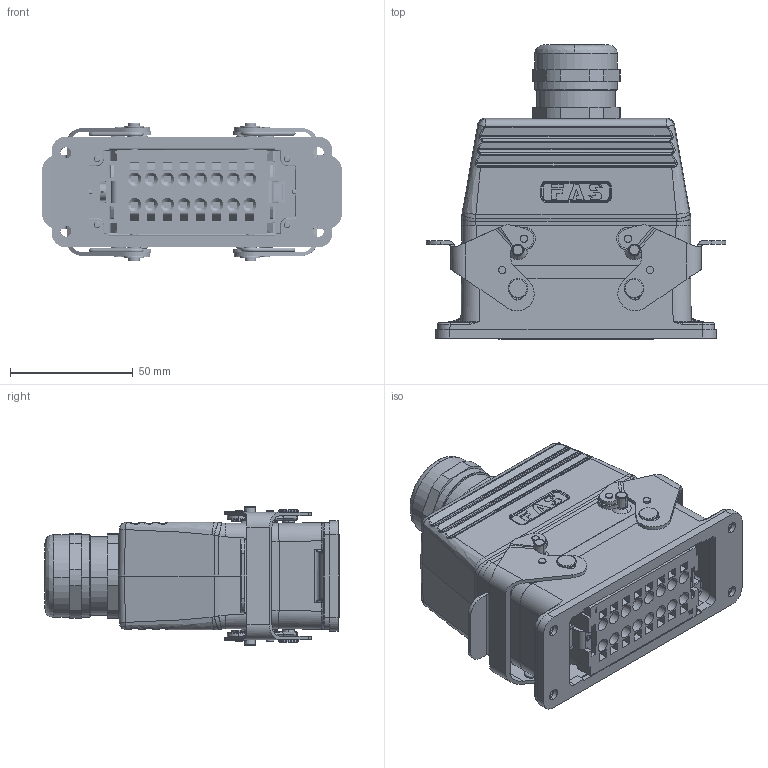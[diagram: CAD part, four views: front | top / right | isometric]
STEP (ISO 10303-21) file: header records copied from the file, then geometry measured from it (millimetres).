
FILE_DESCRIPTION (( 'STEP AP214' ), '1' );
FILE_NAME ('09116102125P HESH、16针、开孔底座、顶出25套件、配塑料接头.STEP', '2024-04-28T02:02:31', ( 'L' ), ( '' ), 'SwSTEP 2.0', 'SolidWorks 2019', '' );
FILE_SCHEMA (( 'AUTOMOTIVE_DESIGN' ));
Length unit declared in the file: millimetre
Products named in the file (6): H16B-TG-M25.step; HESH-016-F.stp; FAS-25-P.step; 09116102125P HESH、16针、开孔底座、顶出25套件、配塑料接头; H16B-AG.step; HESH-016-M.stp
Assembly tree (5 placements, depth 2):
  09116102125P HESH、16针、开孔底座、顶出25套件、配塑料接头
    H16B-AG.step
    HESH-016-M.stp
    HESH-016-F.stp
    H16B-TG-M25.step
    FAS-25-P.step
Bounding box: 122.31 x 120.05 x 56.4 mm (x, y, z)
Volume: 237100.9 mm3; surface area: 128414.6 mm2
Topology: 5 solids, 14 shells, 4330 faces, 11297 edges, 7151 vertices
Faces by surface type: plane 2080, cylinder 1090, cone 499, bspline 391, torus 214, sphere 56
Entity records: 169422 total; most frequent: CARTESIAN_POINT 55019, ORIENTED_EDGE 22394, DIRECTION 19883, EDGE_CURVE 11197, VERTEX_POINT 7147, AXIS2_PLACEMENT_3D 6783, LINE 6317, VECTOR 6317
